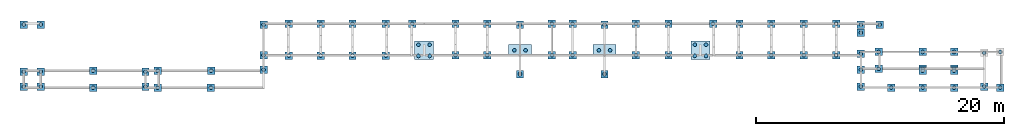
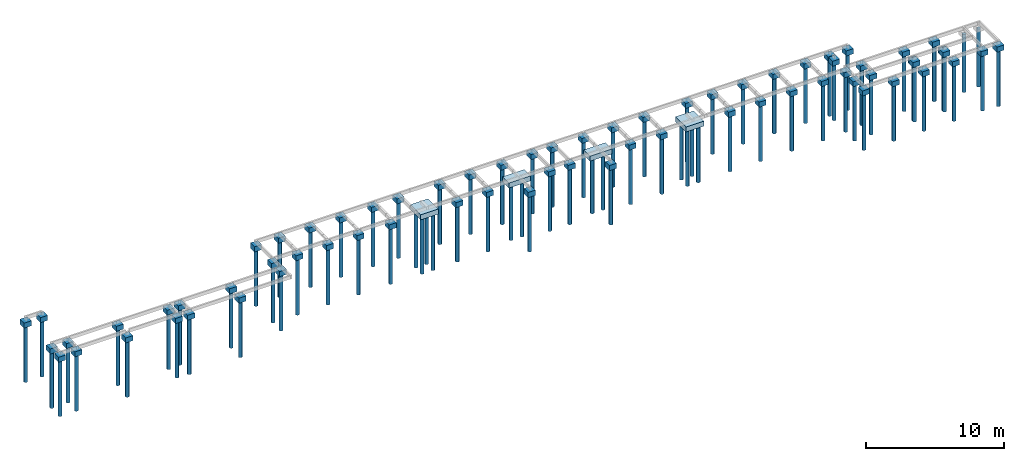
# One storey, part 1 of 6: 84 piles, 74 footings.
"""IFC4 building model written with IfcOpenShell, lengths in centimetres."""

from ifc_helpers import new_model, si_unit, derived_unit, frame, origin_with_axes, origin_2d_with_axis, place, context, project, spatial, circle, extrude, faceted_brep, material, element, save


model = new_model("IFC4")

# Units and contexts
model_context = context("Model", 3, precision=1e-05, world=origin_with_axes(), identifier="Body")
ifc_project = project(units=[si_unit("LENGTHUNIT", "METRE", prefix="CENTI"), si_unit("VOLUMEUNIT", "CUBIC_METRE"), si_unit("AREAUNIT", "SQUARE_METRE"), si_unit("POWERUNIT", "WATT"), si_unit("LUMINOUSFLUXUNIT", "LUMEN"), si_unit("ELECTRICCURRENTUNIT", "AMPERE"), si_unit("PRESSUREUNIT", "PASCAL", prefix="KILO"), si_unit("MASSUNIT", "GRAM", prefix="KILO"), si_unit("PLANEANGLEUNIT", "RADIAN"), derived_unit("VOLUMETRICFLOWRATEUNIT", [(si_unit("LENGTHUNIT", "METRE"), 3), (si_unit("TIMEUNIT", "SECOND"), -1)])], contexts=[model_context])

# Site, building, storey
site_placement = place(None, origin_with_axes())
site = spatial("IfcSite", under=ifc_project, at=site_placement)
building_placement = place(site_placement, frame((0.0, 0.0, -170.0)))
building = spatial("IfcBuilding", under=site, at=building_placement)
storey_placement = place(building_placement, origin_with_axes())
storey = spatial("IfcBuildingStorey", under=building, at=storey_placement, Name="Baldrame", CompositionType="ELEMENT", Elevation=-170.0)

# Footings
ifc_material = material(Name="Concreto")
footing_1_placement = place(storey_placement, frame((-1924.5, 378.5, -30.0), z_axis=(0.0, 0.0, 1.0), x_axis=(1.0, 0.0, 0.0)))
element("IfcFooting", 1, at=footing_1_placement, inside=storey, material=ifc_material, Name="P1", context=model_context, shape_type="SolidModel", body=[
    faceted_brep([(-30.0, -30.0, -45.0), (-30.0, 30.0, -45.0), (30.0, 30.0, -45.0), (30.0, -30.0, -45.0), (30.0, -30.0, 0.0), (30.0, 30.0, 0.0), (-30.0, 30.0, 0.0), (-30.0, -30.0, 0.0)], [[[0, 1, 2, 3]], [[4, 5, 6, 7]], [[4, 3, 5]], [[3, 2, 5]], [[5, 2, 6]], [[2, 1, 6]], [[6, 1, 7]], [[1, 0, 7]], [[7, 0, 4]], [[0, 3, 4]]]),
])
footing_2_placement = place(storey_placement, frame((1810.24, 385.0, -30.0), z_axis=(0.0, 0.0, 1.0), x_axis=(1.0, 0.0, 0.0)))
element("IfcFooting", 2, at=footing_2_placement, inside=storey, material=ifc_material, Name="P10", context=model_context, shape_type="SolidModel", body=[
    faceted_brep([(30.0, -30.0, -45.0), (-30.0, -30.0, -45.0), (-30.0, 30.0, -45.0), (30.0, 30.0, -45.0), (30.0, 30.0, 0.0), (-30.0, 30.0, 0.0), (-30.0, -30.0, 0.0), (30.0, -30.0, 0.0)], [[[0, 1, 2, 3]], [[4, 5, 6, 7]], [[4, 3, 5]], [[3, 2, 5]], [[5, 2, 6]], [[2, 1, 6]], [[6, 1, 7]], [[1, 0, 7]], [[7, 0, 4]], [[0, 3, 4]]]),
])
footing_3_placement = place(storey_placement, frame((4820.12, -121.5, -30.0), z_axis=(0.0, 0.0, 1.0), x_axis=(1.0, 0.0, 0.0)))
element("IfcFooting", 3, at=footing_3_placement, inside=storey, material=ifc_material, Name="P100", context=model_context, shape_type="SolidModel", body=[
    faceted_brep([(30.0, 30.0, -45.0), (30.0, -30.0, -45.0), (-30.0, -30.0, -45.0), (-30.0, 30.0, -45.0), (-30.0, 30.0, 0.0), (-30.0, -30.0, 0.0), (30.0, -30.0, 0.0), (30.0, 30.0, 0.0)], [[[0, 1, 2, 3]], [[4, 5, 6, 7]], [[4, 3, 5]], [[3, 2, 5]], [[5, 2, 6]], [[2, 1, 6]], [[6, 1, 7]], [[1, 0, 7]], [[7, 0, 4]], [[0, 3, 4]]]),
])
for number, where, z_axis, x_axis, name in (
    (4, (5065.12, -129.5, -30.0), (0.0, 0.0, 1.0), (1.0, 0.0, 0.0), "P101"),
    (5, (5318.12, -129.5, -30.0), (0.0, 0.0, 1.0), (1.0, 0.0, 0.0), "P102"),
    (6, (5570.62, -129.5, -30.0), (0.0, 0.0, 1.0), (1.0, 0.0, 0.0), "P103"),
):
    element("IfcFooting", number, at=place(storey_placement, frame(where, z_axis=z_axis, x_axis=x_axis)), inside=storey, material=ifc_material, Name=name, context=model_context, shape_type="SolidModel", body=[
        faceted_brep([(30.0, -30.0, -45.0), (-30.0, -30.0, -45.0), (-30.0, 30.0, -45.0), (30.0, 30.0, -45.0), (30.0, 30.0, 0.0), (-30.0, 30.0, 0.0), (-30.0, -30.0, 0.0), (30.0, -30.0, 0.0)], [[[0, 1, 2, 3]], [[4, 5, 6, 7]], [[4, 3, 5]], [[3, 2, 5]], [[5, 2, 6]], [[2, 1, 6]], [[6, 1, 7]], [[1, 0, 7]], [[7, 0, 4]], [[0, 3, 4]]]),
    ])
footing_4_placement = place(storey_placement, frame((5815.12, -121.5, -30.0), z_axis=(0.0, 0.0, 1.0), x_axis=(1.0, 0.0, 0.0)))
element("IfcFooting", 7, at=footing_4_placement, inside=storey, material=ifc_material, Name="P104", context=model_context, shape_type="SolidModel", body=[
    faceted_brep([(-30.0, -30.0, -45.0), (-30.0, 30.0, -45.0), (30.0, 30.0, -45.0), (30.0, -30.0, -45.0), (30.0, -30.0, 0.0), (30.0, 30.0, 0.0), (-30.0, 30.0, 0.0), (-30.0, -30.0, 0.0)], [[[0, 1, 2, 3]], [[4, 5, 6, 7]], [[4, 3, 5]], [[3, 2, 5]], [[5, 2, 6]], [[2, 1, 6]], [[6, 1, 7]], [[1, 0, 7]], [[7, 0, 4]], [[0, 3, 4]]]),
])
for number, where, z_axis, x_axis, name in (
    (8, (5943.12, -129.5, -30.0), (0.0, 0.0, 1.0), (1.0, 0.0, 0.0), "P105"),
    (9, (-1365.75, -130.0, -49.0), (0.0, 0.0, 1.0), (1.0, 0.0, 0.0), "P106"),
):
    element("IfcFooting", number, at=place(storey_placement, frame(where, z_axis=z_axis, x_axis=x_axis)), inside=storey, material=ifc_material, Name=name, context=model_context, shape_type="SolidModel", body=[
        faceted_brep([(30.0, -30.0, -45.0), (-30.0, -30.0, -45.0), (-30.0, 30.0, -45.0), (30.0, 30.0, -45.0), (30.0, 30.0, 0.0), (-30.0, 30.0, 0.0), (-30.0, -30.0, 0.0), (30.0, -30.0, 0.0)], [[[0, 1, 2, 3]], [[4, 5, 6, 7]], [[4, 3, 5]], [[3, 2, 5]], [[5, 2, 6]], [[2, 1, 6]], [[6, 1, 7]], [[1, 0, 7]], [[7, 0, 4]], [[0, 3, 4]]]),
    ])
footing_5_placement = place(storey_placement, frame((2073.56, 377.0, -30.0), z_axis=(0.0, 0.0, 1.0), x_axis=(1.0, 0.0, 0.0)))
element("IfcFooting", 10, at=footing_5_placement, inside=storey, material=ifc_material, Name="P11", context=model_context, shape_type="SolidModel", body=[
    faceted_brep([(30.0, 30.0, -45.0), (30.0, -30.0, -45.0), (-30.0, -30.0, -45.0), (-30.0, 30.0, -45.0), (-30.0, 30.0, 0.0), (-30.0, -30.0, 0.0), (30.0, -30.0, 0.0), (30.0, 30.0, 0.0)], [[[0, 1, 2, 3]], [[4, 5, 6, 7]], [[4, 3, 5]], [[3, 2, 5]], [[5, 2, 6]], [[2, 1, 6]], [[6, 1, 7]], [[1, 0, 7]], [[7, 0, 4]], [[0, 3, 4]]]),
])
for number, where, z_axis, x_axis, name in (
    (11, (2330.56, 385.0, -30.0), (0.0, 0.0, 1.0), (1.0, 0.0, 0.0), "P12"),
    (12, (2497.56, 385.0, -30.0), (0.0, 0.0, 1.0), (1.0, 0.0, 0.0), "P13"),
):
    element("IfcFooting", number, at=place(storey_placement, frame(where, z_axis=z_axis, x_axis=x_axis)), inside=storey, material=ifc_material, Name=name, context=model_context, shape_type="SolidModel", body=[
        faceted_brep([(30.0, -30.0, -45.0), (-30.0, -30.0, -45.0), (-30.0, 30.0, -45.0), (30.0, 30.0, -45.0), (30.0, 30.0, 0.0), (-30.0, 30.0, 0.0), (-30.0, -30.0, 0.0), (30.0, -30.0, 0.0)], [[[0, 1, 2, 3]], [[4, 5, 6, 7]], [[4, 3, 5]], [[3, 2, 5]], [[5, 2, 6]], [[2, 1, 6]], [[6, 1, 7]], [[1, 0, 7]], [[7, 0, 4]], [[0, 3, 4]]]),
    ])
footing_6_placement = place(storey_placement, frame((2754.56, 377.0, -30.0), z_axis=(0.0, 0.0, 1.0), x_axis=(1.0, 0.0, 0.0)))
element("IfcFooting", 13, at=footing_6_placement, inside=storey, material=ifc_material, Name="P14", context=model_context, shape_type="SolidModel", body=[
    faceted_brep([(-30.0, -30.0, -45.0), (-30.0, 30.0, -45.0), (30.0, 30.0, -45.0), (30.0, -30.0, -45.0), (30.0, -30.0, 0.0), (30.0, 30.0, 0.0), (-30.0, 30.0, 0.0), (-30.0, -30.0, 0.0)], [[[0, 1, 2, 3]], [[4, 5, 6, 7]], [[4, 3, 5]], [[3, 2, 5]], [[5, 2, 6]], [[2, 1, 6]], [[6, 1, 7]], [[1, 0, 7]], [[7, 0, 4]], [[0, 3, 4]]]),
])
for number, where, z_axis, x_axis, name in (
    (14, (3008.01, 385.0, -30.0), (0.0, 0.0, 1.0), (1.0, 0.0, 0.0), "P15"),
    (15, (3269.95, 385.0, -30.0), (0.0, 0.0, 1.0), (1.0, 0.0, 0.0), "P16"),
    (16, (3629.09, 385.0, -30.0), (0.0, 0.0, 1.0), (1.0, 0.0, 0.0), "P17"),
    (17, (3842.09, 385.0, -30.0), (0.0, 0.0, 1.0), (1.0, 0.0, 0.0), "P18"),
    (18, (4098.54, 385.0, -30.0), (0.0, 0.0, 1.0), (1.0, 0.0, 0.0), "P19"),
):
    element("IfcFooting", number, at=place(storey_placement, frame(where, z_axis=z_axis, x_axis=x_axis)), inside=storey, material=ifc_material, Name=name, context=model_context, shape_type="SolidModel", body=[
        faceted_brep([(30.0, -30.0, -45.0), (-30.0, -30.0, -45.0), (-30.0, 30.0, -45.0), (30.0, 30.0, -45.0), (30.0, 30.0, 0.0), (-30.0, 30.0, 0.0), (-30.0, -30.0, 0.0), (30.0, -30.0, 0.0)], [[[0, 1, 2, 3]], [[4, 5, 6, 7]], [[4, 3, 5]], [[3, 2, 5]], [[5, 2, 6]], [[2, 1, 6]], [[6, 1, 7]], [[1, 0, 7]], [[7, 0, 4]], [[0, 3, 4]]]),
    ])
footing_7_placement = place(storey_placement, frame((-1787.5, 378.5, -30.0), z_axis=(0.0, 0.0, 1.0), x_axis=(1.0, 0.0, 0.0)))
element("IfcFooting", 19, at=footing_7_placement, inside=storey, material=ifc_material, Name="P2", context=model_context, shape_type="SolidModel", body=[
    faceted_brep([(30.0, 30.0, -45.0), (30.0, -30.0, -45.0), (-30.0, -30.0, -45.0), (-30.0, 30.0, -45.0), (-30.0, 30.0, 0.0), (-30.0, -30.0, 0.0), (30.0, -30.0, 0.0), (30.0, 30.0, 0.0)], [[[0, 1, 2, 3]], [[4, 5, 6, 7]], [[4, 3, 5]], [[3, 2, 5]], [[5, 2, 6]], [[2, 1, 6]], [[6, 1, 7]], [[1, 0, 7]], [[7, 0, 4]], [[0, 3, 4]]]),
])
for number, where, z_axis, x_axis, name in (
    (20, (4360.17, 385.0, -30.0), (0.0, 0.0, 1.0), (1.0, 0.0, 0.0), "P20"),
    (21, (4622.12, 385.0, -30.0), (0.0, 0.0, 1.0), (1.0, 0.0, 0.0), "P21"),
):
    element("IfcFooting", number, at=place(storey_placement, frame(where, z_axis=z_axis, x_axis=x_axis)), inside=storey, material=ifc_material, Name=name, context=model_context, shape_type="SolidModel", body=[
        faceted_brep([(30.0, -30.0, -45.0), (-30.0, -30.0, -45.0), (-30.0, 30.0, -45.0), (30.0, 30.0, -45.0), (30.0, 30.0, 0.0), (-30.0, 30.0, 0.0), (-30.0, -30.0, 0.0), (30.0, -30.0, 0.0)], [[[0, 1, 2, 3]], [[4, 5, 6, 7]], [[4, 3, 5]], [[3, 2, 5]], [[5, 2, 6]], [[2, 1, 6]], [[6, 1, 7]], [[1, 0, 7]], [[7, 0, 4]], [[0, 3, 4]]]),
    ])
footing_8_placement = place(storey_placement, frame((4820.12, 377.0, -30.0), z_axis=(0.0, 0.0, 1.0), x_axis=(1.0, 0.0, 0.0)))
element("IfcFooting", 22, at=footing_8_placement, inside=storey, material=ifc_material, Name="P22", context=model_context, shape_type="SolidModel", body=[
    faceted_brep([(30.0, 30.0, -45.0), (30.0, -30.0, -45.0), (-30.0, -30.0, -45.0), (-30.0, 30.0, -45.0), (-30.0, 30.0, 0.0), (-30.0, -30.0, 0.0), (30.0, -30.0, 0.0), (30.0, 30.0, 0.0)], [[[0, 1, 2, 3]], [[4, 5, 6, 7]], [[4, 3, 5]], [[3, 2, 5]], [[5, 2, 6]], [[2, 1, 6]], [[6, 1, 7]], [[1, 0, 7]], [[7, 0, 4]], [[0, 3, 4]]]),
])
for number, where, z_axis, x_axis, name in (
    (23, (4971.12, 377.0, -30.0), (0.0, 0.0, 1.0), (1.0, 0.0, 0.0), "P23"),
    (24, (7.5, 377.0, -30.0), (0.0, 0.0, 1.0), (1.0, 0.0, 0.0), "P3"),
):
    element("IfcFooting", number, at=place(storey_placement, frame(where, z_axis=z_axis, x_axis=x_axis)), inside=storey, material=ifc_material, Name=name, context=model_context, shape_type="SolidModel", body=[
        faceted_brep([(-30.0, -30.0, -45.0), (-30.0, 30.0, -45.0), (30.0, 30.0, -45.0), (30.0, -30.0, -45.0), (30.0, -30.0, 0.0), (30.0, 30.0, 0.0), (-30.0, 30.0, 0.0), (-30.0, -30.0, 0.0)], [[[0, 1, 2, 3]], [[4, 5, 6, 7]], [[4, 3, 5]], [[3, 2, 5]], [[5, 2, 6]], [[2, 1, 6]], [[6, 1, 7]], [[1, 0, 7]], [[7, 0, 4]], [[0, 3, 4]]]),
    ])
footing_9_placement = place(storey_placement, frame((4820.12, 313.0, -30.0), z_axis=(0.0, 0.0, 1.0), x_axis=(1.0, 0.0, 0.0)))
element("IfcFooting", 25, at=footing_9_placement, inside=storey, material=ifc_material, Name="P38", context=model_context, shape_type="SolidModel", body=[
    faceted_brep([(30.0, 30.0, -45.0), (30.0, -30.0, -45.0), (-30.0, -30.0, -45.0), (-30.0, 30.0, -45.0), (-30.0, 30.0, 0.0), (-30.0, -30.0, 0.0), (30.0, -30.0, 0.0), (30.0, 30.0, 0.0)], [[[0, 1, 2, 3]], [[4, 5, 6, 7]], [[4, 3, 5]], [[3, 2, 5]], [[5, 2, 6]], [[2, 1, 6]], [[6, 1, 7]], [[1, 0, 7]], [[7, 0, 4]], [[0, 3, 4]]]),
])
footing_10_placement = place(storey_placement, frame((211.5, 385.0, -30.0), z_axis=(0.0, 0.0, 1.0), x_axis=(1.0, 0.0, 0.0)))
element("IfcFooting", 26, at=footing_10_placement, inside=storey, material=ifc_material, Name="P4", context=model_context, shape_type="SolidModel", body=[
    faceted_brep([(30.0, -30.0, -45.0), (-30.0, -30.0, -45.0), (-30.0, 30.0, -45.0), (30.0, 30.0, -45.0), (30.0, 30.0, 0.0), (-30.0, 30.0, 0.0), (-30.0, -30.0, 0.0), (30.0, -30.0, 0.0)], [[[0, 1, 2, 3]], [[4, 5, 6, 7]], [[4, 3, 5]], [[3, 2, 5]], [[5, 2, 6]], [[2, 1, 6]], [[6, 1, 7]], [[1, 0, 7]], [[7, 0, 4]], [[0, 3, 4]]]),
])
footing_11_placement = place(storey_placement, frame((1300.56, 170.5, -30.0), z_axis=(0.0, 0.0, 1.0), x_axis=(1.0, 0.0, 0.0)))
element("IfcFooting", 27, at=footing_11_placement, inside=storey, material=ifc_material, Name="P44", context=model_context, shape_type="SolidModel", body=[
    faceted_brep([(-75.0, -75.0, -45.0), (-75.0, 75.0, -45.0), (75.0, 75.0, -45.0), (75.0, -75.0, -45.0), (75.0, -75.0, 0.0), (75.0, 75.0, 0.0), (-75.0, 75.0, 0.0), (-75.0, -75.0, 0.0)], [[[0, 1, 2, 3]], [[4, 5, 6, 7]], [[4, 3, 5]], [[3, 2, 5]], [[5, 2, 6]], [[2, 1, 6]], [[6, 1, 7]], [[1, 0, 7]], [[7, 0, 4]], [[0, 3, 4]]]),
])
for number, where, z_axis, x_axis, name in (
    (28, (2073.56, 170.5, -30.0), (0.0, 0.0, 1.0), (1.0, 0.0, 0.0), "P47"),
    (29, (2754.56, 170.5, -30.0), (0.0, 0.0, 1.0), (1.0, 0.0, 0.0), "P48"),
):
    element("IfcFooting", number, at=place(storey_placement, frame(where, z_axis=z_axis, x_axis=x_axis)), inside=storey, material=ifc_material, Name=name, context=model_context, shape_type="SolidModel", body=[
        faceted_brep([(91.5, 46.5, -45.0), (91.5, -46.5, -45.0), (-91.5, -46.5, -45.0), (-91.5, 46.5, -45.0), (-91.5, 46.5, 0.0), (-91.5, -46.5, 0.0), (91.5, -46.5, 0.0), (91.5, 46.5, 0.0)], [[[0, 1, 2, 3]], [[4, 5, 6, 7]], [[4, 3, 5]], [[3, 2, 5]], [[5, 2, 6]], [[2, 1, 6]], [[6, 1, 7]], [[1, 0, 7]], [[7, 0, 4]], [[0, 3, 4]]]),
    ])
footing_12_placement = place(storey_placement, frame((467.82, 385.0, -30.0), z_axis=(0.0, 0.0, 1.0), x_axis=(1.0, 0.0, 0.0)))
element("IfcFooting", 30, at=footing_12_placement, inside=storey, material=ifc_material, Name="P5", context=model_context, shape_type="SolidModel", body=[
    faceted_brep([(30.0, -30.0, -45.0), (-30.0, -30.0, -45.0), (-30.0, 30.0, -45.0), (30.0, 30.0, -45.0), (30.0, 30.0, 0.0), (-30.0, 30.0, 0.0), (-30.0, -30.0, 0.0), (30.0, -30.0, 0.0)], [[[0, 1, 2, 3]], [[4, 5, 6, 7]], [[4, 3, 5]], [[3, 2, 5]], [[5, 2, 6]], [[2, 1, 6]], [[6, 1, 7]], [[1, 0, 7]], [[7, 0, 4]], [[0, 3, 4]]]),
])
footing_13_placement = place(storey_placement, frame((3527.56, 170.5, -30.0), z_axis=(0.0, 0.0, 1.0), x_axis=(1.0, 0.0, 0.0)))
element("IfcFooting", 31, at=footing_13_placement, inside=storey, material=ifc_material, Name="P51", context=model_context, shape_type="SolidModel", body=[
    faceted_brep([(-75.0, -75.0, -45.0), (-75.0, 75.0, -45.0), (75.0, 75.0, -45.0), (75.0, -75.0, -45.0), (75.0, -75.0, 0.0), (75.0, 75.0, 0.0), (-75.0, 75.0, 0.0), (-75.0, -75.0, 0.0)], [[[0, 1, 2, 3]], [[4, 5, 6, 7]], [[4, 3, 5]], [[3, 2, 5]], [[5, 2, 6]], [[2, 1, 6]], [[6, 1, 7]], [[1, 0, 7]], [[7, 0, 4]], [[0, 3, 4]]]),
])
footing_14_placement = place(storey_placement, frame((7.5, 131.0, -30.0), z_axis=(0.0, 0.0, 1.0), x_axis=(1.0, 0.0, 0.0)))
element("IfcFooting", 32, at=footing_14_placement, inside=storey, material=ifc_material, Name="P57", context=model_context, shape_type="SolidModel", body=[
    faceted_brep([(-30.0, -30.0, -45.0), (-30.0, 30.0, -45.0), (30.0, 30.0, -45.0), (30.0, -30.0, -45.0), (30.0, -30.0, 0.0), (30.0, 30.0, 0.0), (-30.0, 30.0, 0.0), (-30.0, -30.0, 0.0)], [[[0, 1, 2, 3]], [[4, 5, 6, 7]], [[4, 3, 5]], [[3, 2, 5]], [[5, 2, 6]], [[2, 1, 6]], [[6, 1, 7]], [[1, 0, 7]], [[7, 0, 4]], [[0, 3, 4]]]),
])
for number, where, z_axis, x_axis, name in (
    (33, (211.5, 128.5, -30.0), (0.0, 0.0, 1.0), (1.0, 0.0, 0.0), "P58"),
    (34, (467.82, 128.5, -30.0), (0.0, 0.0, 1.0), (1.0, 0.0, 0.0), "P59"),
    (35, (724.14, 385.0, -30.0), (0.0, 0.0, 1.0), (1.0, 0.0, 0.0), "P6"),
    (36, (724.14, 128.5, -30.0), (0.0, 0.0, 1.0), (1.0, 0.0, 0.0), "P60"),
    (37, (993.53, 128.5, -30.0), (0.0, 0.0, 1.0), (1.0, 0.0, 0.0), "P61"),
    (38, (1553.92, 131.0, -30.0), (0.0, 0.0, 1.0), (1.0, 0.0, 0.0), "P62"),
    (39, (1810.24, 131.0, -30.0), (0.0, 0.0, 1.0), (1.0, 0.0, 0.0), "P63"),
    (40, (2330.56, 131.0, -30.0), (0.0, 0.0, 1.0), (1.0, 0.0, 0.0), "P64"),
    (41, (2497.56, 131.0, -30.0), (0.0, 0.0, 1.0), (1.0, 0.0, 0.0), "P65"),
    (42, (3008.01, 131.0, -30.0), (0.0, 0.0, 1.0), (1.0, 0.0, 0.0), "P66"),
    (43, (3269.95, 131.0, -30.0), (0.0, 0.0, 1.0), (1.0, 0.0, 0.0), "P67"),
    (44, (3842.09, 131.0, -30.0), (0.0, 0.0, 1.0), (1.0, 0.0, 0.0), "P68"),
    (45, (4098.54, 131.0, -30.0), (0.0, 0.0, 1.0), (1.0, 0.0, 0.0), "P69"),
    (46, (993.53, 385.0, -30.0), (0.0, 0.0, 1.0), (1.0, 0.0, 0.0), "P7"),
    (47, (4360.17, 131.0, -30.0), (0.0, 0.0, 1.0), (1.0, 0.0, 0.0), "P70"),
    (48, (4622.12, 131.0, -30.0), (0.0, 0.0, 1.0), (1.0, 0.0, 0.0), "P71"),
):
    element("IfcFooting", number, at=place(storey_placement, frame(where, z_axis=z_axis, x_axis=x_axis)), inside=storey, material=ifc_material, Name=name, context=model_context, shape_type="SolidModel", body=[
        faceted_brep([(30.0, -30.0, -45.0), (-30.0, -30.0, -45.0), (-30.0, 30.0, -45.0), (30.0, 30.0, -45.0), (30.0, 30.0, 0.0), (-30.0, 30.0, 0.0), (-30.0, -30.0, 0.0), (30.0, -30.0, 0.0)], [[[0, 1, 2, 3]], [[4, 5, 6, 7]], [[4, 3, 5]], [[3, 2, 5]], [[5, 2, 6]], [[2, 1, 6]], [[6, 1, 7]], [[1, 0, 7]], [[7, 0, 4]], [[0, 3, 4]]]),
    ])
footing_15_placement = place(storey_placement, frame((4820.12, 144.0, -30.0), z_axis=(0.0, 0.0, 1.0), x_axis=(1.0, 0.0, 0.0)))
element("IfcFooting", 49, at=footing_15_placement, inside=storey, material=ifc_material, Name="P72", context=model_context, shape_type="SolidModel", body=[
    faceted_brep([(30.0, 30.0, -45.0), (30.0, -30.0, -45.0), (-30.0, -30.0, -45.0), (-30.0, 30.0, -45.0), (-30.0, 30.0, 0.0), (-30.0, -30.0, 0.0), (30.0, -30.0, 0.0), (30.0, 30.0, 0.0)], [[[0, 1, 2, 3]], [[4, 5, 6, 7]], [[4, 3, 5]], [[3, 2, 5]], [[5, 2, 6]], [[2, 1, 6]], [[6, 1, 7]], [[1, 0, 7]], [[7, 0, 4]], [[0, 3, 4]]]),
])
for number, where, z_axis, x_axis, name in (
    (50, (4963.12, 157.5, -30.0), (0.0, 0.0, 1.0), (1.0, 0.0, 0.0), "P73"),
    (51, (5318.12, 157.5, -30.0), (0.0, 0.0, 1.0), (1.0, 0.0, 0.0), "P74"),
    (52, (5570.62, 157.5, -30.0), (0.0, 0.0, 1.0), (1.0, 0.0, 0.0), "P75"),
):
    element("IfcFooting", number, at=place(storey_placement, frame(where, z_axis=z_axis, x_axis=x_axis)), inside=storey, material=ifc_material, Name=name, context=model_context, shape_type="SolidModel", body=[
        faceted_brep([(30.0, -30.0, -45.0), (-30.0, -30.0, -45.0), (-30.0, 30.0, -45.0), (30.0, 30.0, -45.0), (30.0, 30.0, 0.0), (-30.0, 30.0, 0.0), (-30.0, -30.0, 0.0), (30.0, -30.0, 0.0)], [[[0, 1, 2, 3]], [[4, 5, 6, 7]], [[4, 3, 5]], [[3, 2, 5]], [[5, 2, 6]], [[2, 1, 6]], [[6, 1, 7]], [[1, 0, 7]], [[7, 0, 4]], [[0, 3, 4]]]),
    ])
for number, where, z_axis, x_axis, name in (
    (53, (-1924.5, -1.0, -30.0), (0.0, 0.0, 1.0), (1.0, 0.0, 0.0), "P78"),
    (54, (-1787.5, -1.0, -30.0), (0.0, 0.0, 1.0), (1.0, 0.0, 0.0), "P79"),
):
    element("IfcFooting", number, at=place(storey_placement, frame(where, z_axis=z_axis, x_axis=x_axis)), inside=storey, material=ifc_material, Name=name, context=model_context, shape_type="SolidModel", body=[
        faceted_brep([(30.0, 30.0, -45.0), (30.0, -30.0, -45.0), (-30.0, -30.0, -45.0), (-30.0, 30.0, -45.0), (-30.0, 30.0, 0.0), (-30.0, -30.0, 0.0), (30.0, -30.0, 0.0), (30.0, 30.0, 0.0)], [[[0, 1, 2, 3]], [[4, 5, 6, 7]], [[4, 3, 5]], [[3, 2, 5]], [[5, 2, 6]], [[2, 1, 6]], [[6, 1, 7]], [[1, 0, 7]], [[7, 0, 4]], [[0, 3, 4]]]),
    ])
for number, where, z_axis, x_axis, name in (
    (55, (1206.53, 385.0, -30.0), (0.0, 0.0, 1.0), (1.0, 0.0, 0.0), "P8"),
    (56, (-1365.5, 7.0, -30.0), (0.0, 0.0, 1.0), (1.0, 0.0, 0.0), "P80"),
):
    element("IfcFooting", number, at=place(storey_placement, frame(where, z_axis=z_axis, x_axis=x_axis)), inside=storey, material=ifc_material, Name=name, context=model_context, shape_type="SolidModel", body=[
        faceted_brep([(30.0, -30.0, -45.0), (-30.0, -30.0, -45.0), (-30.0, 30.0, -45.0), (30.0, 30.0, -45.0), (30.0, 30.0, 0.0), (-30.0, 30.0, 0.0), (-30.0, -30.0, 0.0), (30.0, -30.0, 0.0)], [[[0, 1, 2, 3]], [[4, 5, 6, 7]], [[4, 3, 5]], [[3, 2, 5]], [[5, 2, 6]], [[2, 1, 6]], [[6, 1, 7]], [[1, 0, 7]], [[7, 0, 4]], [[0, 3, 4]]]),
    ])
footing_16_placement = place(storey_placement, frame((-943.5, -1.0, -30.0), z_axis=(0.0, 0.0, 1.0), x_axis=(1.0, 0.0, 0.0)))
element("IfcFooting", 57, at=footing_16_placement, inside=storey, material=ifc_material, Name="P81", context=model_context, shape_type="SolidModel", body=[
    faceted_brep([(30.0, 30.0, -45.0), (30.0, -30.0, -45.0), (-30.0, -30.0, -45.0), (-30.0, 30.0, -45.0), (-30.0, 30.0, 0.0), (-30.0, -30.0, 0.0), (30.0, -30.0, 0.0), (30.0, 30.0, 0.0)], [[[0, 1, 2, 3]], [[4, 5, 6, 7]], [[4, 3, 5]], [[3, 2, 5]], [[5, 2, 6]], [[2, 1, 6]], [[6, 1, 7]], [[1, 0, 7]], [[7, 0, 4]], [[0, 3, 4]]]),
])
for number, where, z_axis, x_axis, name in (
    (58, (-845.5, 7.0, -30.0), (0.0, 0.0, 1.0), (1.0, 0.0, 0.0), "P82"),
    (59, (-415.0, 7.0, -30.0), (0.0, 0.0, 1.0), (1.0, 0.0, 0.0), "P83"),
):
    element("IfcFooting", number, at=place(storey_placement, frame(where, z_axis=z_axis, x_axis=x_axis)), inside=storey, material=ifc_material, Name=name, context=model_context, shape_type="SolidModel", body=[
        faceted_brep([(30.0, -30.0, -45.0), (-30.0, -30.0, -45.0), (-30.0, 30.0, -45.0), (30.0, 30.0, -45.0), (30.0, 30.0, 0.0), (-30.0, 30.0, 0.0), (-30.0, -30.0, 0.0), (30.0, -30.0, 0.0)], [[[0, 1, 2, 3]], [[4, 5, 6, 7]], [[4, 3, 5]], [[3, 2, 5]], [[5, 2, 6]], [[2, 1, 6]], [[6, 1, 7]], [[1, 0, 7]], [[7, 0, 4]], [[0, 3, 4]]]),
    ])
for number, where, z_axis, x_axis, name in (
    (60, (7.5, 15.0, -30.0), (0.0, 0.0, 1.0), (1.0, 0.0, 0.0), "P84"),
    (61, (2073.57, -20.5, -30.0), (0.0, 0.0, 1.0), (1.0, 0.0, 0.0), "P85"),
):
    element("IfcFooting", number, at=place(storey_placement, frame(where, z_axis=z_axis, x_axis=x_axis)), inside=storey, material=ifc_material, Name=name, context=model_context, shape_type="SolidModel", body=[
        faceted_brep([(-30.0, -30.0, -45.0), (-30.0, 30.0, -45.0), (30.0, 30.0, -45.0), (30.0, -30.0, -45.0), (30.0, -30.0, 0.0), (30.0, 30.0, 0.0), (-30.0, 30.0, 0.0), (-30.0, -30.0, 0.0)], [[[0, 1, 2, 3]], [[4, 5, 6, 7]], [[4, 3, 5]], [[3, 2, 5]], [[5, 2, 6]], [[2, 1, 6]], [[6, 1, 7]], [[1, 0, 7]], [[7, 0, 4]], [[0, 3, 4]]]),
    ])
footing_17_placement = place(storey_placement, frame((2754.56, -20.5, -30.0), z_axis=(0.0, 0.0, 1.0), x_axis=(1.0, 0.0, 0.0)))
element("IfcFooting", 62, at=footing_17_placement, inside=storey, material=ifc_material, Name="P86", context=model_context, shape_type="SolidModel", body=[
    faceted_brep([(30.0, 30.0, -45.0), (30.0, -30.0, -45.0), (-30.0, -30.0, -45.0), (-30.0, 30.0, -45.0), (-30.0, 30.0, 0.0), (-30.0, -30.0, 0.0), (30.0, -30.0, 0.0), (30.0, 30.0, 0.0)], [[[0, 1, 2, 3]], [[4, 5, 6, 7]], [[4, 3, 5]], [[3, 2, 5]], [[5, 2, 6]], [[2, 1, 6]], [[6, 1, 7]], [[1, 0, 7]], [[7, 0, 4]], [[0, 3, 4]]]),
])
footing_18_placement = place(storey_placement, frame((4820.12, 14.0, -30.0), z_axis=(0.0, 0.0, 1.0), x_axis=(1.0, 0.0, 0.0)))
element("IfcFooting", 63, at=footing_18_placement, inside=storey, material=ifc_material, Name="P87", context=model_context, shape_type="SolidModel", body=[
    faceted_brep([(-30.0, -30.0, -45.0), (-30.0, 30.0, -45.0), (30.0, 30.0, -45.0), (30.0, -30.0, -45.0), (30.0, -30.0, 0.0), (30.0, 30.0, 0.0), (-30.0, 30.0, 0.0), (-30.0, -30.0, 0.0)], [[[0, 1, 2, 3]], [[4, 5, 6, 7]], [[4, 3, 5]], [[3, 2, 5]], [[5, 2, 6]], [[2, 1, 6]], [[6, 1, 7]], [[1, 0, 7]], [[7, 0, 4]], [[0, 3, 4]]]),
])
for number, where, z_axis, x_axis, name in (
    (64, (4963.12, 21.5, -30.0), (0.0, 0.0, 1.0), (1.0, 0.0, 0.0), "P88"),
    (65, (5318.12, 21.5, -30.0), (0.0, 0.0, 1.0), (1.0, 0.0, 0.0), "P89"),
    (66, (1553.92, 385.0, -30.0), (0.0, 0.0, 1.0), (1.0, 0.0, 0.0), "P9"),
    (67, (5318.12, 6.5, -30.0), (0.0, 0.0, 1.0), (1.0, 0.0, 0.0), "P90"),
    (68, (5570.62, 21.5, -30.0), (0.0, 0.0, 1.0), (1.0, 0.0, 0.0), "P91"),
    (69, (5570.62, 6.5, -30.0), (0.0, 0.0, 1.0), (1.0, 0.0, 0.0), "P92"),
):
    element("IfcFooting", number, at=place(storey_placement, frame(where, z_axis=z_axis, x_axis=x_axis)), inside=storey, material=ifc_material, Name=name, context=model_context, shape_type="SolidModel", body=[
        faceted_brep([(30.0, -30.0, -45.0), (-30.0, -30.0, -45.0), (-30.0, 30.0, -45.0), (30.0, 30.0, -45.0), (30.0, 30.0, 0.0), (-30.0, 30.0, 0.0), (-30.0, -30.0, 0.0), (30.0, -30.0, 0.0)], [[[0, 1, 2, 3]], [[4, 5, 6, 7]], [[4, 3, 5]], [[3, 2, 5]], [[5, 2, 6]], [[2, 1, 6]], [[6, 1, 7]], [[1, 0, 7]], [[7, 0, 4]], [[0, 3, 4]]]),
    ])
footing_19_placement = place(storey_placement, frame((-1924.5, -122.0, -30.0), z_axis=(0.0, 0.0, 1.0), x_axis=(1.0, 0.0, 0.0)))
element("IfcFooting", 70, at=footing_19_placement, inside=storey, material=ifc_material, Name="P93", context=model_context, shape_type="SolidModel", body=[
    faceted_brep([(30.0, 30.0, -45.0), (30.0, -30.0, -45.0), (-30.0, -30.0, -45.0), (-30.0, 30.0, -45.0), (-30.0, 30.0, 0.0), (-30.0, -30.0, 0.0), (30.0, -30.0, 0.0), (30.0, 30.0, 0.0)], [[[0, 1, 2, 3]], [[4, 5, 6, 7]], [[4, 3, 5]], [[3, 2, 5]], [[5, 2, 6]], [[2, 1, 6]], [[6, 1, 7]], [[1, 0, 7]], [[7, 0, 4]], [[0, 3, 4]]]),
])
for number, where, z_axis, x_axis, name in (
    (71, (-1787.5, -122.0, -30.0), (0.0, 0.0, 1.0), (1.0, 0.0, 0.0), "P94"),
    (72, (-943.5, -122.0, -30.0), (0.0, 0.0, 1.0), (1.0, 0.0, 0.0), "P96"),
):
    element("IfcFooting", number, at=place(storey_placement, frame(where, z_axis=z_axis, x_axis=x_axis)), inside=storey, material=ifc_material, Name=name, context=model_context, shape_type="SolidModel", body=[
        faceted_brep([(-30.0, -30.0, -45.0), (-30.0, 30.0, -45.0), (30.0, 30.0, -45.0), (30.0, -30.0, -45.0), (30.0, -30.0, 0.0), (30.0, 30.0, 0.0), (-30.0, 30.0, 0.0), (-30.0, -30.0, 0.0)], [[[0, 1, 2, 3]], [[4, 5, 6, 7]], [[4, 3, 5]], [[3, 2, 5]], [[5, 2, 6]], [[2, 1, 6]], [[6, 1, 7]], [[1, 0, 7]], [[7, 0, 4]], [[0, 3, 4]]]),
    ])
for number, where, z_axis, x_axis, name in (
    (73, (-845.5, -130.0, -30.0), (0.0, 0.0, 1.0), (1.0, 0.0, 0.0), "P97"),
    (74, (-416.45, -130.0, -30.0), (0.0, 0.0, 1.0), (1.0, 0.0, 0.0), "P98"),
):
    element("IfcFooting", number, at=place(storey_placement, frame(where, z_axis=z_axis, x_axis=x_axis)), inside=storey, material=ifc_material, Name=name, context=model_context, shape_type="SolidModel", body=[
        faceted_brep([(30.0, -30.0, -45.0), (-30.0, -30.0, -45.0), (-30.0, 30.0, -45.0), (30.0, 30.0, -45.0), (30.0, 30.0, 0.0), (-30.0, 30.0, 0.0), (-30.0, -30.0, 0.0), (30.0, -30.0, 0.0)], [[[0, 1, 2, 3]], [[4, 5, 6, 7]], [[4, 3, 5]], [[3, 2, 5]], [[5, 2, 6]], [[2, 1, 6]], [[6, 1, 7]], [[1, 0, 7]], [[7, 0, 4]], [[0, 3, 4]]]),
    ])

# Piles
for number, where, z_axis, x_axis, name in (
    (75, (-1924.5, 378.5, -60.0), (0.0, 0.0, 1.0), (1.0, 0.0, 0.0), "E1-1"),
    (76, (1810.24, 385.0, -60.0), (0.0, 0.0, 1.0), (1.0, 0.0, 0.0), "E10-1"),
    (77, (4820.12, -121.5, -60.0), (0.0, 0.0, 1.0), (1.0, 0.0, 0.0), "E100-1"),
    (78, (5065.12, -129.5, -60.0), (0.0, 0.0, 1.0), (1.0, 0.0, 0.0), "E101-1"),
    (79, (5318.12, -129.5, -60.0), (0.0, 0.0, 1.0), (1.0, 0.0, 0.0), "E102-1"),
    (80, (5570.62, -129.5, -60.0), (0.0, 0.0, 1.0), (1.0, 0.0, 0.0), "E103-1"),
    (81, (5815.12, -121.5, -60.0), (0.0, 0.0, 1.0), (1.0, 0.0, 0.0), "E104-1"),
    (82, (5943.12, -129.5, -60.0), (0.0, 0.0, 1.0), (1.0, 0.0, 0.0), "E105-1"),
    (83, (-1365.75, -130.0, -79.0), (0.0, 0.0, 1.0), (1.0, 0.0, 0.0), "E106-1"),
    (84, (2073.56, 377.0, -60.0), (0.0, 0.0, 1.0), (1.0, 0.0, 0.0), "E11-1"),
    (85, (2330.56, 385.0, -60.0), (0.0, 0.0, 1.0), (1.0, 0.0, 0.0), "E12-1"),
    (86, (2497.56, 385.0, -60.0), (0.0, 0.0, 1.0), (1.0, 0.0, 0.0), "E13-1"),
    (87, (2754.56, 377.0, -60.0), (0.0, 0.0, 1.0), (1.0, 0.0, 0.0), "E14-1"),
    (88, (3008.01, 385.0, -60.0), (0.0, 0.0, 1.0), (1.0, 0.0, 0.0), "E15-1"),
    (89, (3269.95, 385.0, -60.0), (0.0, 0.0, 1.0), (1.0, 0.0, 0.0), "E16-1"),
    (90, (3629.09, 385.0, -60.0), (0.0, 0.0, 1.0), (1.0, 0.0, 0.0), "E17-1"),
    (91, (3842.09, 385.0, -60.0), (0.0, 0.0, 1.0), (1.0, 0.0, 0.0), "E18-1"),
    (92, (4098.54, 385.0, -60.0), (0.0, 0.0, 1.0), (1.0, 0.0, 0.0), "E19-1"),
    (93, (-1787.5, 378.5, -60.0), (0.0, 0.0, 1.0), (1.0, 0.0, 0.0), "E2-1"),
    (94, (4360.17, 385.0, -60.0), (0.0, 0.0, 1.0), (1.0, 0.0, 0.0), "E20-1"),
    (95, (4622.12, 385.0, -60.0), (0.0, 0.0, 1.0), (1.0, 0.0, 0.0), "E21-1"),
    (96, (4820.12, 377.0, -60.0), (0.0, 0.0, 1.0), (1.0, 0.0, 0.0), "E22-1"),
    (97, (4971.12, 377.0, -60.0), (0.0, 0.0, 1.0), (1.0, 0.0, 0.0), "E23-1"),
    (98, (7.5, 377.0, -60.0), (0.0, 0.0, 1.0), (1.0, 0.0, 0.0), "E3-1"),
    (99, (4820.12, 313.0, -60.0), (0.0, 0.0, 1.0), (1.0, 0.0, 0.0), "E38-1"),
    (100, (211.5, 385.0, -60.0), (0.0, 0.0, 1.0), (1.0, 0.0, 0.0), "E4-1"),
    (101, (1255.56, 215.5, -60.0), (0.0, 0.0, 1.0), (1.0, 0.0, 0.0), "E44-1"),
    (102, (1345.56, 215.5, -60.0), (0.0, 0.0, 1.0), (1.0, 0.0, 0.0), "E44-2"),
    (103, (1255.56, 125.5, -60.0), (0.0, 0.0, 1.0), (1.0, 0.0, 0.0), "E44-3"),
    (104, (1345.56, 125.5, -60.0), (0.0, 0.0, 1.0), (1.0, 0.0, 0.0), "E44-4"),
    (105, (2028.56, 170.5, -60.0), (0.0, 0.0, 1.0), (1.0, 0.0, 0.0), "E47-1"),
    (106, (2118.56, 170.5, -60.0), (0.0, 0.0, 1.0), (1.0, 0.0, 0.0), "E47-2"),
    (107, (2709.56, 170.5, -60.0), (0.0, 0.0, 1.0), (1.0, 0.0, 0.0), "E48-1"),
    (108, (2799.56, 170.5, -60.0), (0.0, 0.0, 1.0), (1.0, 0.0, 0.0), "E48-2"),
    (109, (467.82, 385.0, -60.0), (0.0, 0.0, 1.0), (1.0, 0.0, 0.0), "E5-1"),
    (110, (3482.56, 215.5, -60.0), (0.0, 0.0, 1.0), (1.0, 0.0, 0.0), "E51-1"),
    (111, (3572.56, 215.5, -60.0), (0.0, 0.0, 1.0), (1.0, 0.0, 0.0), "E51-2"),
    (112, (3482.56, 125.5, -60.0), (0.0, 0.0, 1.0), (1.0, 0.0, 0.0), "E51-3"),
    (113, (3572.56, 125.5, -60.0), (0.0, 0.0, 1.0), (1.0, 0.0, 0.0), "E51-4"),
    (114, (7.5, 131.0, -60.0), (0.0, 0.0, 1.0), (1.0, 0.0, 0.0), "E57-1"),
    (115, (211.5, 128.5, -60.0), (0.0, 0.0, 1.0), (1.0, 0.0, 0.0), "E58-1"),
    (116, (467.82, 128.5, -60.0), (0.0, 0.0, 1.0), (1.0, 0.0, 0.0), "E59-1"),
    (117, (724.14, 385.0, -60.0), (0.0, 0.0, 1.0), (1.0, 0.0, 0.0), "E6-1"),
    (118, (724.14, 128.5, -60.0), (0.0, 0.0, 1.0), (1.0, 0.0, 0.0), "E60-1"),
    (119, (993.53, 128.5, -60.0), (0.0, 0.0, 1.0), (1.0, 0.0, 0.0), "E61-1"),
    (120, (1553.92, 131.0, -60.0), (0.0, 0.0, 1.0), (1.0, 0.0, 0.0), "E62-1"),
    (121, (1810.24, 131.0, -60.0), (0.0, 0.0, 1.0), (1.0, 0.0, 0.0), "E63-1"),
    (122, (2330.56, 131.0, -60.0), (0.0, 0.0, 1.0), (1.0, 0.0, 0.0), "E64-1"),
    (123, (2497.56, 131.0, -60.0), (0.0, 0.0, 1.0), (1.0, 0.0, 0.0), "E65-1"),
    (124, (3008.01, 131.0, -60.0), (0.0, 0.0, 1.0), (1.0, 0.0, 0.0), "E66-1"),
    (125, (3269.95, 131.0, -60.0), (0.0, 0.0, 1.0), (1.0, 0.0, 0.0), "E67-1"),
    (126, (3842.09, 131.0, -60.0), (0.0, 0.0, 1.0), (1.0, 0.0, 0.0), "E68-1"),
    (127, (4098.54, 131.0, -60.0), (0.0, 0.0, 1.0), (1.0, 0.0, 0.0), "E69-1"),
    (128, (993.53, 385.0, -60.0), (0.0, 0.0, 1.0), (1.0, 0.0, 0.0), "E7-1"),
    (129, (4360.17, 131.0, -60.0), (0.0, 0.0, 1.0), (1.0, 0.0, 0.0), "E70-1"),
    (130, (4622.12, 131.0, -60.0), (0.0, 0.0, 1.0), (1.0, 0.0, 0.0), "E71-1"),
    (131, (4820.12, 144.0, -60.0), (0.0, 0.0, 1.0), (1.0, 0.0, 0.0), "E72-1"),
    (132, (4963.12, 157.5, -60.0), (0.0, 0.0, 1.0), (1.0, 0.0, 0.0), "E73-1"),
    (133, (5318.12, 157.5, -60.0), (0.0, 0.0, 1.0), (1.0, 0.0, 0.0), "E74-1"),
    (134, (5570.62, 157.5, -60.0), (0.0, 0.0, 1.0), (1.0, 0.0, 0.0), "E75-1"),
    (135, (5815.12, 149.5, -60.0), (0.0, 0.0, 1.0), (1.0, 0.0, 0.0), "E76-1"),
    (136, (5943.12, 157.5, -60.0), (0.0, 0.0, 1.0), (1.0, 0.0, 0.0), "E77-1"),
    (137, (-1924.5, -1.0, -60.0), (0.0, 0.0, 1.0), (1.0, 0.0, 0.0), "E78-1"),
    (138, (-1787.5, -1.0, -60.0), (0.0, 0.0, 1.0), (1.0, 0.0, 0.0), "E79-1"),
    (139, (1206.53, 385.0, -60.0), (0.0, 0.0, 1.0), (1.0, 0.0, 0.0), "E8-1"),
    (140, (-1365.5, 7.0, -60.0), (0.0, 0.0, 1.0), (1.0, 0.0, 0.0), "E80-1"),
    (141, (-943.5, -1.0, -60.0), (0.0, 0.0, 1.0), (1.0, 0.0, 0.0), "E81-1"),
    (142, (-845.5, 7.0, -60.0), (0.0, 0.0, 1.0), (1.0, 0.0, 0.0), "E82-1"),
    (143, (-415.0, 7.0, -60.0), (0.0, 0.0, 1.0), (1.0, 0.0, 0.0), "E83-1"),
    (144, (7.5, 15.0, -60.0), (0.0, 0.0, 1.0), (1.0, 0.0, 0.0), "E84-1"),
    (145, (2073.57, -20.5, -60.0), (0.0, 0.0, 1.0), (1.0, 0.0, 0.0), "E85-1"),
    (146, (2754.56, -20.5, -60.0), (0.0, 0.0, 1.0), (1.0, 0.0, 0.0), "E86-1"),
    (147, (4820.12, 14.0, -60.0), (0.0, 0.0, 1.0), (1.0, 0.0, 0.0), "E87-1"),
    (148, (4963.12, 21.5, -60.0), (0.0, 0.0, 1.0), (1.0, 0.0, 0.0), "E88-1"),
    (149, (5318.12, 21.5, -60.0), (0.0, 0.0, 1.0), (1.0, 0.0, 0.0), "E89-1"),
    (150, (1553.92, 385.0, -60.0), (0.0, 0.0, 1.0), (1.0, 0.0, 0.0), "E9-1"),
    (151, (5318.12, 6.5, -60.0), (0.0, 0.0, 1.0), (1.0, 0.0, 0.0), "E90-1"),
    (152, (5570.62, 21.5, -60.0), (0.0, 0.0, 1.0), (1.0, 0.0, 0.0), "E91-1"),
    (153, (5570.62, 6.5, -60.0), (0.0, 0.0, 1.0), (1.0, 0.0, 0.0), "E92-1"),
    (154, (-1924.5, -122.0, -60.0), (0.0, 0.0, 1.0), (1.0, 0.0, 0.0), "E93-1"),
    (155, (-1787.5, -122.0, -60.0), (0.0, 0.0, 1.0), (1.0, 0.0, 0.0), "E94-1"),
    (156, (-943.5, -122.0, -60.0), (0.0, 0.0, 1.0), (1.0, 0.0, 0.0), "E96-1"),
    (157, (-845.5, -130.0, -60.0), (0.0, 0.0, 1.0), (1.0, 0.0, 0.0), "E97-1"),
    (158, (-416.45, -130.0, -60.0), (0.0, 0.0, 1.0), (1.0, 0.0, 0.0), "E98-1"),
):
    element("IfcPile", number, at=place(storey_placement, frame(where, z_axis=z_axis, x_axis=x_axis)), inside=storey, material=ifc_material, Name=name, context=model_context, shape_type="SweptSolid", body=[
        extrude(circle(Radius=15.0, at=origin_2d_with_axis()), frame((0.0, 0.0, -515.0), z_axis=(0.0, 0.0, 1.0), x_axis=(1.0, 0.0, 0.0)), (0.0, 0.0, 1.0), 515.0),
    ])

save(model, "model.ifc")
